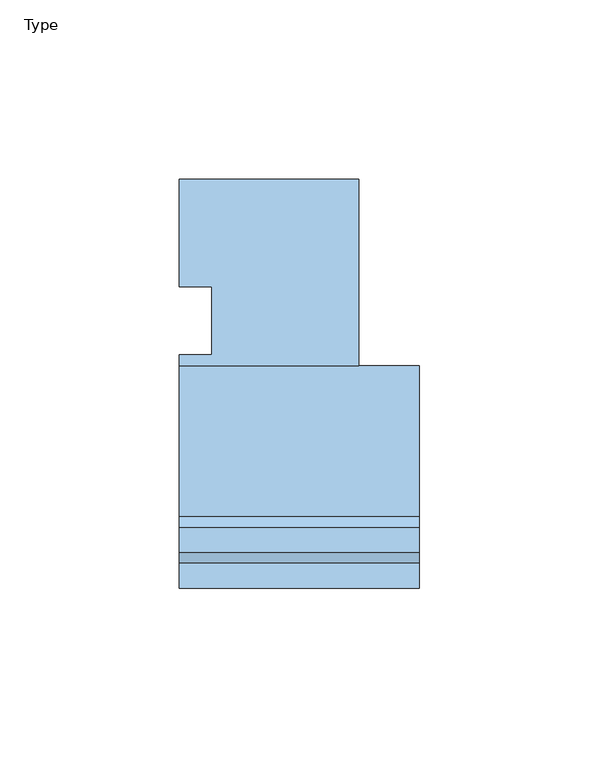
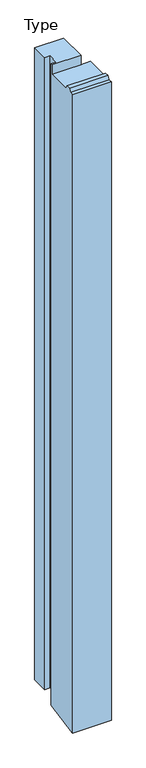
"""IFC4 building model written with IfcOpenShell, lengths in millimetres: window geometry, NLRS_30_MC_zijstijll_vg_bis_67x114 : Type."""

from ifc_helpers import new_model, si_unit, origin, place, context, project, spatial, faceted_brep, source, transform, mapped, element, save


def type_75c93bea(model_context):
    return source(origin(), model_context, "Body", "Brep", [
        faceted_brep([(50.0, 114.0, 1224.4), (50.0, 62.0, 1224.4), (50.0, 62.0, 1207.4), (50.0, 62.0, 49.2361111), (50.0, 72.0, 51.0), (50.0, 72.0, 67.0), (50.0, 114.0, 67.0), (67.0, 62.0, 1207.4), (67.0, 62.0, 49.2361111), (67.0, 20.0, 1207.4), (67.0, 17.0, 1213.4), (67.0, 10.0, 1213.4), (67.0, 7.0, 1207.4), (67.0, 0.0, 1207.4), (67.0, 0.0, 38.3), (0.0, 0.0, 1207.4), (0.0, 0.0, 38.3), (0.0, 62.0, 1224.4), (0.0, 65.0, 1224.4), (0.0, 65.0, 49.7652778), (0.0, 7.0, 1207.4), (0.0, 10.0, 1213.4), (0.0, 17.0, 1213.4), (0.0, 20.0, 1207.4), (0.0, 62.0, 1207.4), (9.0, 65.0, 1224.4), (9.0, 65.0, 49.7652778), (9.0, 84.0, 1224.4), (9.0, 84.0, 67.0), (9.0, 72.0, 67.0), (9.0, 72.0, 51.0), (0.0, 84.0, 1224.4), (0.0, 84.0, 67.0), (0.0, 114.0, 1224.4), (0.0, 114.0, 67.0)], [[[0, 1, 2, 3, 4, 5, 6]], [[2, 7, 8, 3]], [[7, 9, 10, 11, 12, 13, 14, 8]], [[13, 15, 16, 14]], [[17, 18, 19, 16, 15, 20, 21, 22, 23, 24]], [[18, 25, 26, 19]], [[25, 27, 28, 29, 30, 26]], [[27, 31, 32, 28]], [[31, 33, 34, 32]], [[33, 0, 6, 34]], [[30, 4, 3, 8, 14, 16, 19, 26]], [[4, 30, 29, 5]], [[5, 29, 28, 32, 34, 6]], [[17, 1, 0, 33, 31, 27, 25, 18]], [[1, 17, 24, 2]], [[23, 9, 7, 2, 24]], [[9, 23, 22, 10]], [[10, 22, 21, 11]], [[11, 21, 20, 12]], [[12, 20, 15, 13]]]),
    ])


if __name__ == "__main__":
    model = new_model("IFC4")
    model_context = context("Model", 3, world=origin())
    ifc_project = project(units=[si_unit("LENGTHUNIT", "METRE", prefix="MILLI")], contexts=[model_context])
    site = spatial("IfcSite", under=ifc_project)
    building = spatial("IfcBuilding", under=site)
    placement = place(None, origin())
    ifc_type_shape = type_75c93bea(model_context)
    element("IfcWindow", 1, ObjectType="NLRS_30_MC_zijstijll_vg_bis_67x114 : Type", at=placement, inside=building, context=model_context, shape_type="MappedRepresentation", body=[
        mapped(ifc_type_shape, transform((0.0, 0.0, 0.0), x_axis=(1.0, 0.0, 0.0), y_axis=(0.0, 1.0, 0.0), z_axis=(0.0, 0.0, 1.0))),
    ])
    save(model, "model.ifc")
